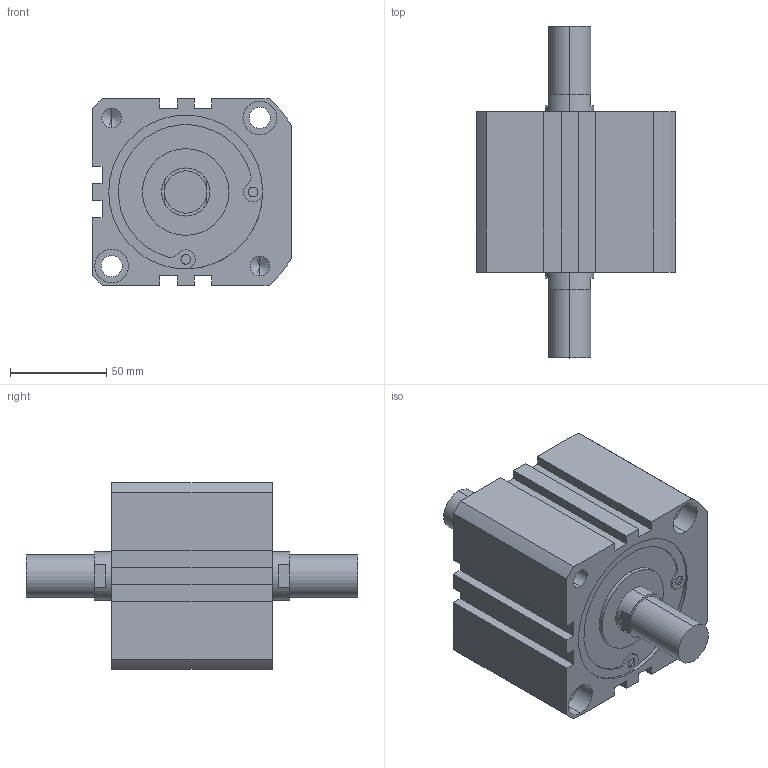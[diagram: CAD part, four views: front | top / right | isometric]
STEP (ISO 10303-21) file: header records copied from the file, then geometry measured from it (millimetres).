
FILE_DESCRIPTION (( 'STEP AP203' ), '1' );
FILE_NAME ('XG#M7-80D-10.STEP', '2016-05-24T02:25:48', ( '' ), ( '' ), 'SwSTEP 2.0', 'SolidWorks 2014', '' );
FILE_SCHEMA (( 'CONFIG_CONTROL_DESIGN' ));
Length unit declared in the file: millimetre
Products named in the file (1): XG#M7-80D-10
Bounding box: 103.5 x 172.5 x 97 mm (x, y, z)
Volume: 785631.4 mm3; surface area: 75723 mm2
Topology: 1 solids, 1 shells, 142 faces, 354 edges, 224 vertices
Faces by surface type: cylinder 66, plane 60, cone 16
Entity records: 4269 total; most frequent: DIRECTION 782, CARTESIAN_POINT 709, ORIENTED_EDGE 684, EDGE_CURVE 342, AXIS2_PLACEMENT_3D 297, VERTEX_POINT 224, LINE 188, VECTOR 188
